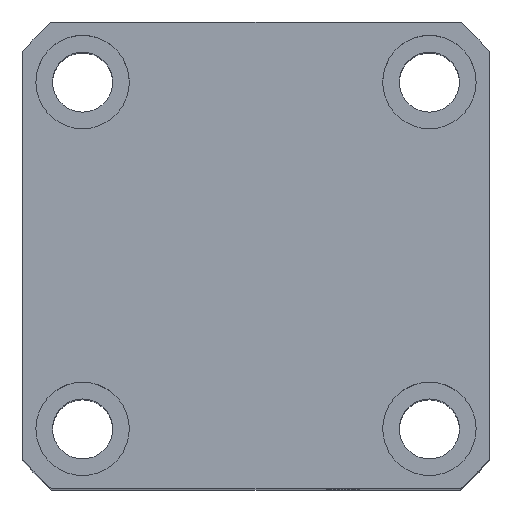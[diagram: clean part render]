
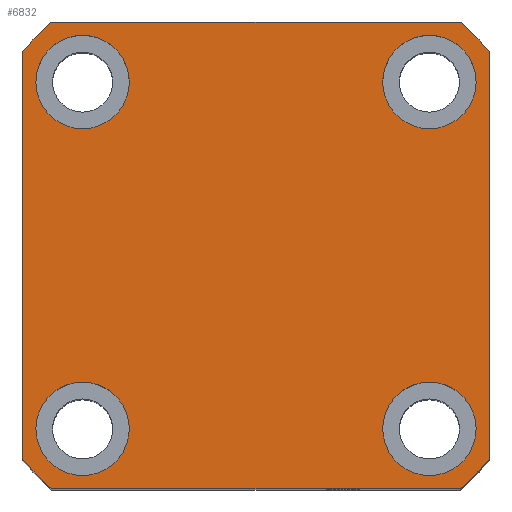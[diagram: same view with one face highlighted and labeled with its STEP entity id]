
A CAD part, top view. The second image highlights one B-rep face of the part: STEP entity #6832.
In plain terms, the highlighted planar face has unit normal (0, 0, 1).
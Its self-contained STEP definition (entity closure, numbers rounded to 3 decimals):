
#124 = CARTESIAN_POINT ( 'NONE',  ( 0., 0., 95. ) ) ;
#201 = EDGE_CURVE ( 'NONE', #7021, #5315, #6257, .T. ) ;
#266 = CARTESIAN_POINT ( 'NONE',  ( 35., 35., 95. ) ) ;
#296 = DIRECTION ( 'NONE',  ( 0., 0., 1. ) ) ;
#328 = DIRECTION ( 'NONE',  ( 1., 0., 0. ) ) ;
#445 = CARTESIAN_POINT ( 'NONE',  ( 0., 0., 95. ) ) ;
#489 = EDGE_CURVE ( 'NONE', #4370, #7021, #10062, .T. ) ;
#512 = VERTEX_POINT ( 'NONE', #6275 ) ;
#529 = DIRECTION ( 'NONE',  ( 0., -1., 0. ) ) ;
#582 = ORIENTED_EDGE ( 'NONE', *, *, #7872, .T. ) ;
#598 = EDGE_CURVE ( 'NONE', #8860, #8431, #3054, .T. ) ;
#689 = VERTEX_POINT ( 'NONE', #2549 ) ;
#811 = AXIS2_PLACEMENT_3D ( 'NONE', #445, #5956, #1264 ) ;
#928 = DIRECTION ( 'NONE',  ( 1., 0., 0. ) ) ;
#1080 = AXIS2_PLACEMENT_3D ( 'NONE', #1395, #6863, #2174 ) ;
#1111 = FACE_OUTER_BOUND ( 'NONE', #3323, .T. ) ;
#1246 = ORIENTED_EDGE ( 'NONE', *, *, #3000, .F. ) ;
#1264 = DIRECTION ( 'NONE',  ( 1., 0., 0. ) ) ;
#1347 = EDGE_CURVE ( 'NONE', #689, #7897, #2154, .T. ) ;
#1374 = FACE_BOUND ( 'NONE', #1444, .T. ) ;
#1395 = CARTESIAN_POINT ( 'NONE',  ( 26., -26., 95. ) ) ;
#1397 = EDGE_CURVE ( 'NONE', #3120, #3684, #10010, .T. ) ;
#1444 = EDGE_LOOP ( 'NONE', ( #9953, #6026 ) ) ;
#1498 = DIRECTION ( 'NONE',  ( 0., 0., 1. ) ) ;
#1610 = VERTEX_POINT ( 'NONE', #6034 ) ;
#1626 = VECTOR ( 'NONE', #529, 1000. ) ;
#1647 = ORIENTED_EDGE ( 'NONE', *, *, #2414, .T. ) ;
#1818 = AXIS2_PLACEMENT_3D ( 'NONE', #124, #5635, #928 ) ;
#1988 = DIRECTION ( 'NONE',  ( 0., 0., 1. ) ) ;
#1989 = CIRCLE ( 'NONE', #5411, 7. ) ;
#2081 = ORIENTED_EDGE ( 'NONE', *, *, #4183, .T. ) ;
#2154 = CIRCLE ( 'NONE', #9407, 7. ) ;
#2174 = DIRECTION ( 'NONE',  ( 1., 0., 0. ) ) ;
#2258 = AXIS2_PLACEMENT_3D ( 'NONE', #6182, #1498, #6975 ) ;
#2300 = DIRECTION ( 'NONE',  ( 1., 0., 0. ) ) ;
#2367 = CARTESIAN_POINT ( 'NONE',  ( -35., -35., 95. ) ) ;
#2414 = EDGE_CURVE ( 'NONE', #5315, #5683, #8524, .T. ) ;
#2440 = CARTESIAN_POINT ( 'NONE',  ( 33., 26., 95. ) ) ;
#2549 = CARTESIAN_POINT ( 'NONE',  ( 19., -26., 95. ) ) ;
#2578 = PLANE ( 'NONE',  #4006 ) ;
#2647 = CARTESIAN_POINT ( 'NONE',  ( 0., 0., 95. ) ) ;
#2666 = EDGE_CURVE ( 'NONE', #512, #1610, #5699, .T. ) ;
#2798 = ORIENTED_EDGE ( 'NONE', *, *, #6584, .T. ) ;
#2842 = DIRECTION ( 'NONE',  ( -1., 0., 0. ) ) ;
#2860 = CARTESIAN_POINT ( 'NONE',  ( -35., 35., 95. ) ) ;
#2869 = CARTESIAN_POINT ( 'NONE',  ( 19., 26., 95. ) ) ;
#3000 = EDGE_CURVE ( 'NONE', #7897, #689, #8873, .T. ) ;
#3044 = CARTESIAN_POINT ( 'NONE',  ( -30.615, 35., 95. ) ) ;
#3054 = CIRCLE ( 'NONE', #6193, 7. ) ;
#3058 = CARTESIAN_POINT ( 'NONE',  ( -30.615, -35., 95. ) ) ;
#3116 = AXIS2_PLACEMENT_3D ( 'NONE', #9744, #5049, #328 ) ;
#3120 = VERTEX_POINT ( 'NONE', #3044 ) ;
#3173 = ORIENTED_EDGE ( 'NONE', *, *, #4527, .F. ) ;
#3189 = FACE_BOUND ( 'NONE', #5179, .T. ) ;
#3323 = EDGE_LOOP ( 'NONE', ( #582, #3905, #2081, #6483, #2798, #9296, #9803, #1647 ) ) ;
#3431 = DIRECTION ( 'NONE',  ( 0., 0., 1. ) ) ;
#3482 = DIRECTION ( 'NONE',  ( 0., 0., 1. ) ) ;
#3488 = VERTEX_POINT ( 'NONE', #4517 ) ;
#3664 = EDGE_CURVE ( 'NONE', #8431, #8860, #8009, .T. ) ;
#3684 = VERTEX_POINT ( 'NONE', #10108 ) ;
#3685 = LINE ( 'NONE', #2860, #1626 ) ;
#3828 = CARTESIAN_POINT ( 'NONE',  ( 26., 26., 95. ) ) ;
#3905 = ORIENTED_EDGE ( 'NONE', *, *, #9108, .T. ) ;
#3997 = CARTESIAN_POINT ( 'NONE',  ( 0., 0., 95. ) ) ;
#4006 = AXIS2_PLACEMENT_3D ( 'NONE', #2647, #3431, #8923 ) ;
#4183 = EDGE_CURVE ( 'NONE', #6693, #3120, #6051, .T. ) ;
#4270 = AXIS2_PLACEMENT_3D ( 'NONE', #3997, #9480, #4779 ) ;
#4370 = VERTEX_POINT ( 'NONE', #4839 ) ;
#4412 = CARTESIAN_POINT ( 'NONE',  ( -33., 26., 95. ) ) ;
#4424 = EDGE_LOOP ( 'NONE', ( #1246, #7469 ) ) ;
#4517 = CARTESIAN_POINT ( 'NONE',  ( -19., 26., 95. ) ) ;
#4527 = EDGE_CURVE ( 'NONE', #3488, #8729, #9223, .T. ) ;
#4618 = DIRECTION ( 'NONE',  ( 1., 0., 0. ) ) ;
#4642 = DIRECTION ( 'NONE',  ( 1., 0., 0. ) ) ;
#4779 = DIRECTION ( 'NONE',  ( 1., 0., 0. ) ) ;
#4839 = CARTESIAN_POINT ( 'NONE',  ( -35., -30.615, 95. ) ) ;
#5010 = CARTESIAN_POINT ( 'NONE',  ( -26., -26., 95. ) ) ;
#5015 = CARTESIAN_POINT ( 'NONE',  ( 33., -26., 95. ) ) ;
#5049 = DIRECTION ( 'NONE',  ( 0., 0., 1. ) ) ;
#5179 = EDGE_LOOP ( 'NONE', ( #3173, #7594 ) ) ;
#5225 = CARTESIAN_POINT ( 'NONE',  ( -35., 35., 95. ) ) ;
#5298 = FACE_BOUND ( 'NONE', #4424, .T. ) ;
#5315 = VERTEX_POINT ( 'NONE', #9941 ) ;
#5388 = DIRECTION ( 'NONE',  ( 0., 0., 1. ) ) ;
#5411 = AXIS2_PLACEMENT_3D ( 'NONE', #8195, #3482, #8967 ) ;
#5420 = CARTESIAN_POINT ( 'NONE',  ( 26., 26., 95. ) ) ;
#5632 = CARTESIAN_POINT ( 'NONE',  ( 35., -30.615, 95. ) ) ;
#5635 = DIRECTION ( 'NONE',  ( 0., 0., 1. ) ) ;
#5683 = VERTEX_POINT ( 'NONE', #5632 ) ;
#5699 = CIRCLE ( 'NONE', #7077, 7. ) ;
#5809 = DIRECTION ( 'NONE',  ( 1., 0., 0. ) ) ;
#5850 = VECTOR ( 'NONE', #6553, 1000. ) ;
#5956 = DIRECTION ( 'NONE',  ( 0., 0., 1. ) ) ;
#6026 = ORIENTED_EDGE ( 'NONE', *, *, #10162, .F. ) ;
#6034 = CARTESIAN_POINT ( 'NONE',  ( -33., -26., 95. ) ) ;
#6051 = LINE ( 'NONE', #5225, #9723 ) ;
#6151 = AXIS2_PLACEMENT_3D ( 'NONE', #3828, #9298, #4618 ) ;
#6182 = CARTESIAN_POINT ( 'NONE',  ( -26., 26., 95. ) ) ;
#6193 = AXIS2_PLACEMENT_3D ( 'NONE', #5420, #5388, #4642 ) ;
#6257 = LINE ( 'NONE', #2367, #10192 ) ;
#6275 = CARTESIAN_POINT ( 'NONE',  ( -19., -26., 95. ) ) ;
#6483 = ORIENTED_EDGE ( 'NONE', *, *, #1397, .T. ) ;
#6553 = DIRECTION ( 'NONE',  ( 0., 1., 0. ) ) ;
#6584 = EDGE_CURVE ( 'NONE', #3684, #4370, #3685, .T. ) ;
#6590 = CARTESIAN_POINT ( 'NONE',  ( 35., 30.615, 95. ) ) ;
#6668 = CARTESIAN_POINT ( 'NONE',  ( 26., -26., 95. ) ) ;
#6693 = VERTEX_POINT ( 'NONE', #10045 ) ;
#6832 = ADVANCED_FACE ( 'NONE', ( #1374, #5298, #7368, #3189, #1111 ), #2578, .T. ) ;
#6863 = DIRECTION ( 'NONE',  ( 0., 0., 1. ) ) ;
#6889 = VERTEX_POINT ( 'NONE', #6590 ) ;
#6975 = DIRECTION ( 'NONE',  ( 1., 0., 0. ) ) ;
#7021 = VERTEX_POINT ( 'NONE', #3058 ) ;
#7077 = AXIS2_PLACEMENT_3D ( 'NONE', #5010, #296, #5809 ) ;
#7146 = EDGE_LOOP ( 'NONE', ( #7716, #7960 ) ) ;
#7368 = FACE_BOUND ( 'NONE', #7146, .T. ) ;
#7455 = DIRECTION ( 'NONE',  ( 1., 0., 0. ) ) ;
#7469 = ORIENTED_EDGE ( 'NONE', *, *, #1347, .F. ) ;
#7594 = ORIENTED_EDGE ( 'NONE', *, *, #9905, .F. ) ;
#7681 = LINE ( 'NONE', #266, #5850 ) ;
#7716 = ORIENTED_EDGE ( 'NONE', *, *, #3664, .F. ) ;
#7782 = CIRCLE ( 'NONE', #2258, 7. ) ;
#7872 = EDGE_CURVE ( 'NONE', #5683, #6889, #7681, .T. ) ;
#7897 = VERTEX_POINT ( 'NONE', #5015 ) ;
#7960 = ORIENTED_EDGE ( 'NONE', *, *, #598, .F. ) ;
#8009 = CIRCLE ( 'NONE', #6151, 7. ) ;
#8169 = CIRCLE ( 'NONE', #4270, 46.5 ) ;
#8195 = CARTESIAN_POINT ( 'NONE',  ( -26., -26., 95. ) ) ;
#8431 = VERTEX_POINT ( 'NONE', #2440 ) ;
#8524 = CIRCLE ( 'NONE', #1818, 46.5 ) ;
#8550 = AXIS2_PLACEMENT_3D ( 'NONE', #9613, #8953, #8920 ) ;
#8729 = VERTEX_POINT ( 'NONE', #4412 ) ;
#8860 = VERTEX_POINT ( 'NONE', #2869 ) ;
#8873 = CIRCLE ( 'NONE', #1080, 7. ) ;
#8920 = DIRECTION ( 'NONE',  ( 1., 0., 0. ) ) ;
#8923 = DIRECTION ( 'NONE',  ( 1., 0., 0. ) ) ;
#8953 = DIRECTION ( 'NONE',  ( 0., 0., 1. ) ) ;
#8967 = DIRECTION ( 'NONE',  ( 1., 0., 0. ) ) ;
#9108 = EDGE_CURVE ( 'NONE', #6889, #6693, #8169, .T. ) ;
#9223 = CIRCLE ( 'NONE', #3116, 7. ) ;
#9296 = ORIENTED_EDGE ( 'NONE', *, *, #489, .T. ) ;
#9298 = DIRECTION ( 'NONE',  ( 0., 0., 1. ) ) ;
#9407 = AXIS2_PLACEMENT_3D ( 'NONE', #6668, #1988, #7455 ) ;
#9480 = DIRECTION ( 'NONE',  ( 0., 0., 1. ) ) ;
#9613 = CARTESIAN_POINT ( 'NONE',  ( 0., 0., 95. ) ) ;
#9723 = VECTOR ( 'NONE', #2842, 1000. ) ;
#9744 = CARTESIAN_POINT ( 'NONE',  ( -26., 26., 95. ) ) ;
#9803 = ORIENTED_EDGE ( 'NONE', *, *, #201, .T. ) ;
#9905 = EDGE_CURVE ( 'NONE', #8729, #3488, #7782, .T. ) ;
#9941 = CARTESIAN_POINT ( 'NONE',  ( 30.615, -35., 95. ) ) ;
#9953 = ORIENTED_EDGE ( 'NONE', *, *, #2666, .F. ) ;
#10010 = CIRCLE ( 'NONE', #811, 46.5 ) ;
#10045 = CARTESIAN_POINT ( 'NONE',  ( 30.615, 35., 95. ) ) ;
#10062 = CIRCLE ( 'NONE', #8550, 46.5 ) ;
#10108 = CARTESIAN_POINT ( 'NONE',  ( -35., 30.615, 95. ) ) ;
#10162 = EDGE_CURVE ( 'NONE', #1610, #512, #1989, .T. ) ;
#10192 = VECTOR ( 'NONE', #2300, 1000. ) ;
